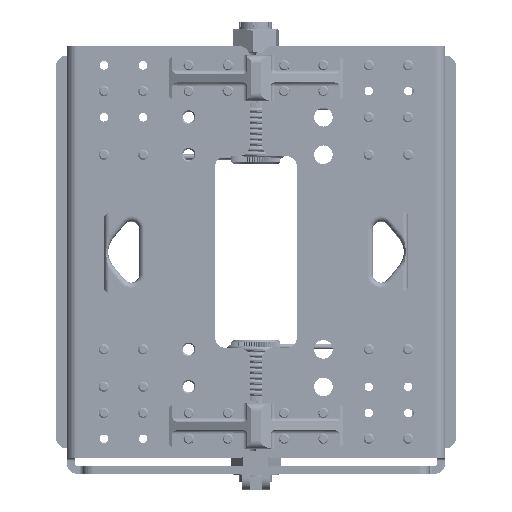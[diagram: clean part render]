
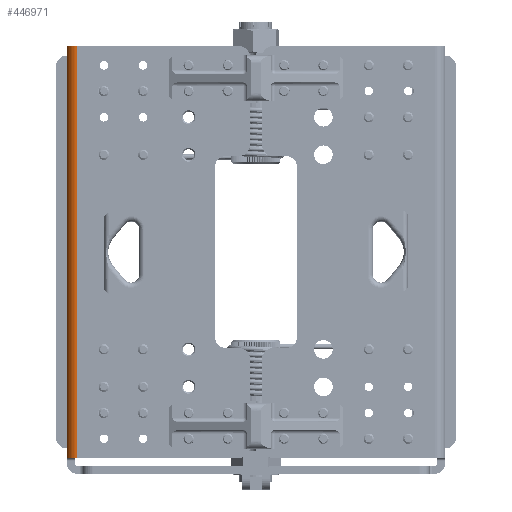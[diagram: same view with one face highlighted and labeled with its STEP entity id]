
A CAD part, left-side view. The second image highlights one B-rep face of the part: STEP entity #446971.
In plain terms, the highlighted cylindrical face has radius 3.048 mm (diameter 6.096 mm), a partial arc.
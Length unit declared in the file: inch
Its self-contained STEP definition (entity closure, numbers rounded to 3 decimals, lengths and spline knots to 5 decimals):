
#16772 = CARTESIAN_POINT ( 'NONE',  ( -16.07303, 4.462, 2.3622 ) ) ;
#25360 = DIRECTION ( 'NONE',  ( 0., 0., -1. ) ) ;
#26996 = CARTESIAN_POINT ( 'NONE',  ( -16.07303, 4.342, 2.3622 ) ) ;
#36564 = DIRECTION ( 'NONE',  ( 0., -1., 0. ) ) ;
#74314 = DIRECTION ( 'NONE',  ( 0., -1., 0. ) ) ;
#80672 = AXIS2_PLACEMENT_3D ( 'NONE', #434723, #152393, #482238 ) ;
#95779 = AXIS2_PLACEMENT_3D ( 'NONE', #26996, #356659, #74314 ) ;
#110581 = EDGE_LOOP ( 'NONE', ( #524653, #234400, #563214, #568465 ) ) ;
#152393 = DIRECTION ( 'NONE',  ( 0., 0., 1. ) ) ;
#169569 = EDGE_CURVE ( 'NONE', #175335, #591534, #332863, .T. ) ;
#175335 = VERTEX_POINT ( 'NONE', #16772 ) ;
#207364 = VECTOR ( 'NONE', #25360, 39.37008 ) ;
#217299 = EDGE_CURVE ( 'NONE', #441677, #175335, #387716, .T. ) ;
#221550 = CARTESIAN_POINT ( 'NONE',  ( -16.19303, 4.342, 2.3622 ) ) ;
#224088 = LINE ( 'NONE', #602171, #238881 ) ;
#234400 = ORIENTED_EDGE ( 'NONE', *, *, #354170, .T. ) ;
#238881 = VECTOR ( 'NONE', #272385, 39.37008 ) ;
#272385 = DIRECTION ( 'NONE',  ( 0., 0., 1. ) ) ;
#332863 = LINE ( 'NONE', #590069, #207364 ) ;
#342956 = CIRCLE ( 'NONE', #80672, 0.12 ) ;
#354170 = EDGE_CURVE ( 'NONE', #591534, #561596, #342956, .T. ) ;
#356659 = DIRECTION ( 'NONE',  ( 0., 0., -1. ) ) ;
#387716 = CIRCLE ( 'NONE', #95779, 0.12 ) ;
#413578 = CARTESIAN_POINT ( 'NONE',  ( -16.07303, 4.342, 20.92138 ) ) ;
#434723 = CARTESIAN_POINT ( 'NONE',  ( -16.07303, 4.342, -2.3622 ) ) ;
#441677 = VERTEX_POINT ( 'NONE', #221550 ) ;
#446971 = ADVANCED_FACE ( 'NONE', ( #481209 ), #466392, .T. ) ;
#457046 = DIRECTION ( 'NONE',  ( 0., 0., -1. ) ) ;
#466392 = CYLINDRICAL_SURFACE ( 'NONE', #475402, 0.12 ) ;
#475402 = AXIS2_PLACEMENT_3D ( 'NONE', #413578, #457046, #36564 ) ;
#481209 = FACE_OUTER_BOUND ( 'NONE', #110581, .T. ) ;
#482238 = DIRECTION ( 'NONE',  ( 0., -1., 0. ) ) ;
#524653 = ORIENTED_EDGE ( 'NONE', *, *, #169569, .T. ) ;
#537126 = CARTESIAN_POINT ( 'NONE',  ( -16.07303, 4.462, -2.3622 ) ) ;
#553096 = CARTESIAN_POINT ( 'NONE',  ( -16.19303, 4.342, -2.3622 ) ) ;
#561596 = VERTEX_POINT ( 'NONE', #553096 ) ;
#563214 = ORIENTED_EDGE ( 'NONE', *, *, #568523, .T. ) ;
#568465 = ORIENTED_EDGE ( 'NONE', *, *, #217299, .T. ) ;
#568523 = EDGE_CURVE ( 'NONE', #561596, #441677, #224088, .T. ) ;
#590069 = CARTESIAN_POINT ( 'NONE',  ( -16.07303, 4.462, 2.3622 ) ) ;
#591534 = VERTEX_POINT ( 'NONE', #537126 ) ;
#602171 = CARTESIAN_POINT ( 'NONE',  ( -16.19303, 4.342, 2.3622 ) ) ;
